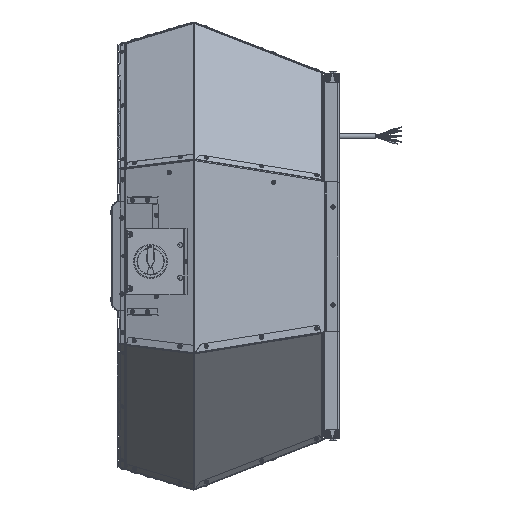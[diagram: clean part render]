
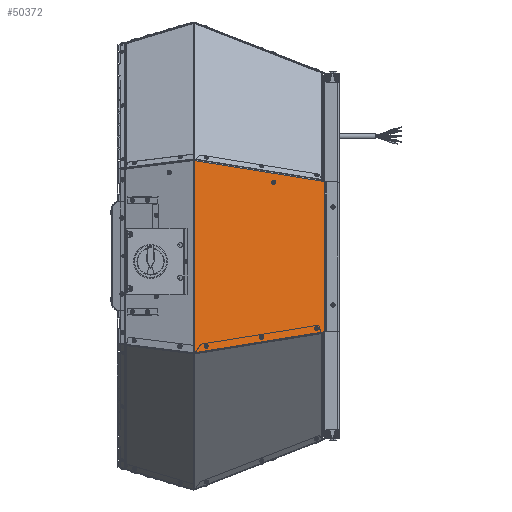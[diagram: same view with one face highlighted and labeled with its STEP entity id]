
A CAD part, left-side view. The second image highlights one B-rep face of the part: STEP entity #50372.
In plain terms, the highlighted planar face has unit normal (-0.932, -0.362, 0).
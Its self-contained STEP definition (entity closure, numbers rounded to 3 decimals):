
#900 = EDGE_CURVE ( 'NONE', #111246, #110384, #77386, .T. ) ;
#9060 = CARTESIAN_POINT ( 'NONE',  ( -327.007, -21.91, 136.099 ) ) ;
#9062 = DIRECTION ( 'NONE',  ( 0.362, -0.932, 0. ) ) ;
#9079 = CARTESIAN_POINT ( 'NONE',  ( -429.996, 242.927, 175.286 ) ) ;
#9082 = DIRECTION ( 'NONE',  ( 0.28, -0.72, 0.636 ) ) ;
#16364 = FACE_BOUND ( 'NONE', #85414, .T. ) ;
#16367 = FACE_BOUND ( 'NONE', #85711, .T. ) ;
#16369 = FACE_OUTER_BOUND ( 'NONE', #85741, .T. ) ;
#16371 = FACE_BOUND ( 'NONE', #85644, .T. ) ;
#16372 = FACE_BOUND ( 'NONE', #85731, .T. ) ;
#27580 = CARTESIAN_POINT ( 'NONE',  ( -381.379, 117.909, -149.259 ) ) ;
#27660 = CARTESIAN_POINT ( 'NONE',  ( -382.901, 121.823, -149.259 ) ) ;
#27673 = CARTESIAN_POINT ( 'NONE',  ( -420.806, 219.293, -165.591 ) ) ;
#27679 = CARTESIAN_POINT ( 'NONE',  ( -338.931, 8.753, 137.643 ) ) ;
#27714 = CARTESIAN_POINT ( 'NONE',  ( -430., 242.936, 175.286 ) ) ;
#27717 = CARTESIAN_POINT ( 'NONE',  ( -372.601, 95.335, 135.22 ) ) ;
#27837 = CARTESIAN_POINT ( 'NONE',  ( -429.996, 242.927, 175.286 ) ) ;
#27844 = CARTESIAN_POINT ( 'NONE',  ( -343.475, 20.438, -132.928 ) ) ;
#27925 = CARTESIAN_POINT ( 'NONE',  ( -336.426, 2.312, 136.099 ) ) ;
#27926 = CARTESIAN_POINT ( 'NONE',  ( -430., 242.936, -177.755 ) ) ;
#27988 = CARTESIAN_POINT ( 'NONE',  ( -422.328, 223.208, -165.591 ) ) ;
#28020 = CARTESIAN_POINT ( 'NONE',  ( -429.967, 242.853, 175.352 ) ) ;
#34130 = CIRCLE ( 'NONE', #156478, 2.1 ) ;
#35260 = DIRECTION ( 'NONE',  ( 0.932, 0.362, 0. ) ) ;
#35262 = CARTESIAN_POINT ( 'NONE',  ( -430.298, 243.702, 177.765 ) ) ;
#35268 = PLANE ( 'NONE',  #163879 ) ;
#35274 = DIRECTION ( 'NONE',  ( -0.362, 0.932, 0. ) ) ;
#40109 = DIRECTION ( 'NONE',  ( 0.362, -0.932, 0. ) ) ;
#40113 = DIRECTION ( 'NONE',  ( -0.932, -0.362, 0. ) ) ;
#40114 = CARTESIAN_POINT ( 'NONE',  ( -342.714, 18.481, -132.928 ) ) ;
#41705 = LINE ( 'NONE', #150708, #41707 ) ;
#41707 = VECTOR ( 'NONE', #150706, 1000. ) ;
#41897 = LINE ( 'NONE', #45782, #41907 ) ;
#41899 = LINE ( 'NONE', #45765, #41902 ) ;
#41902 = VECTOR ( 'NONE', #45770, 1000. ) ;
#41907 = VECTOR ( 'NONE', #45798, 1000. ) ;
#41915 = CIRCLE ( 'NONE', #155805, 2.1 ) ;
#41940 = LINE ( 'NONE', #46190, #41944 ) ;
#41943 = CIRCLE ( 'NONE', #155837, 2.1 ) ;
#41944 = VECTOR ( 'NONE', #46137, 1000. ) ;
#41956 = CIRCLE ( 'NONE', #155854, 2.1 ) ;
#42516 = CIRCLE ( 'NONE', #156021, 2.1 ) ;
#42531 = LINE ( 'NONE', #132648, #42534 ) ;
#42534 = VECTOR ( 'NONE', #132655, 1000. ) ;
#45765 = CARTESIAN_POINT ( 'NONE',  ( -429.996, 242.927, 175.286 ) ) ;
#45770 = DIRECTION ( 'NONE',  ( 0.362, -0.932, 0. ) ) ;
#45782 = CARTESIAN_POINT ( 'NONE',  ( -336.426, 2.312, 177.765 ) ) ;
#45798 = DIRECTION ( 'NONE',  ( 0., 0., -1. ) ) ;
#45900 = CARTESIAN_POINT ( 'NONE',  ( -382.14, 119.866, -149.259 ) ) ;
#45904 = DIRECTION ( 'NONE',  ( -0.932, -0.362, 0. ) ) ;
#45907 = DIRECTION ( 'NONE',  ( 0.362, -0.932, 0. ) ) ;
#46137 = DIRECTION ( 'NONE',  ( 0., 0., -1. ) ) ;
#46190 = CARTESIAN_POINT ( 'NONE',  ( -338.931, 8.753, 136.099 ) ) ;
#46220 = CARTESIAN_POINT ( 'NONE',  ( -382.14, 119.866, -149.259 ) ) ;
#46222 = DIRECTION ( 'NONE',  ( -0.932, -0.362, 0. ) ) ;
#46227 = DIRECTION ( 'NONE',  ( 0.362, -0.932, 0. ) ) ;
#46456 = CARTESIAN_POINT ( 'NONE',  ( -342.714, 18.481, -132.928 ) ) ;
#46459 = DIRECTION ( 'NONE',  ( -0.932, -0.362, 0. ) ) ;
#46463 = DIRECTION ( 'NONE',  ( 0.362, -0.932, 0. ) ) ;
#50372 = ADVANCED_FACE ( 'NONE', ( #16367, #16372, #16364, #16371, #16369 ), #35268, .F. ) ;
#58980 = LINE ( 'NONE', #90972, #58990 ) ;
#58990 = VECTOR ( 'NONE', #90981, 1000. ) ;
#59613 = CIRCLE ( 'NONE', #156170, 2.1 ) ;
#59937 = CIRCLE ( 'NONE', #156200, 2.1 ) ;
#60118 = LINE ( 'NONE', #9060, #60125 ) ;
#60125 = VECTOR ( 'NONE', #9062, 1000. ) ;
#60127 = LINE ( 'NONE', #9079, #60139 ) ;
#60139 = VECTOR ( 'NONE', #9082, 1000. ) ;
#77386 = CIRCLE ( 'NONE', #88217, 2.1 ) ;
#85414 = EDGE_LOOP ( 'NONE', ( #149684, #149686 ) ) ;
#85644 = EDGE_LOOP ( 'NONE', ( #149680, #149682 ) ) ;
#85711 = EDGE_LOOP ( 'NONE', ( #149693, #149695 ) ) ;
#85731 = EDGE_LOOP ( 'NONE', ( #149688, #149690 ) ) ;
#85741 = EDGE_LOOP ( 'NONE', ( #149675, #149677, #149671, #149673, #149667, #149669, #149662, #149664 ) ) ;
#87997 = EDGE_CURVE ( 'NONE', #109713, #110653, #41705, .T. ) ;
#88217 = AXIS2_PLACEMENT_3D ( 'NONE', #40114, #40113, #40109 ) ;
#88724 = EDGE_CURVE ( 'NONE', #109713, #110368, #41899, .T. ) ;
#88733 = EDGE_CURVE ( 'NONE', #110659, #111002, #41897, .T. ) ;
#88768 = EDGE_CURVE ( 'NONE', #109640, #109495, #41915, .T. ) ;
#88850 = EDGE_CURVE ( 'NONE', #109669, #110952, #41940, .T. ) ;
#88859 = EDGE_CURVE ( 'NONE', #109495, #109640, #41943, .T. ) ;
#88904 = EDGE_CURVE ( 'NONE', #110384, #111246, #41956, .T. ) ;
#89982 = EDGE_CURVE ( 'NONE', #109717, #111155, #42516, .T. ) ;
#90011 = EDGE_CURVE ( 'NONE', #109669, #110880, #42531, .T. ) ;
#90972 = CARTESIAN_POINT ( 'NONE',  ( -336.426, 2.312, -138.995 ) ) ;
#90981 = DIRECTION ( 'NONE',  ( -0.358, 0.922, -0.148 ) ) ;
#91497 = EDGE_CURVE ( 'NONE', #111002, #110653, #58980, .T. ) ;
#92294 = EDGE_CURVE ( 'NONE', #110801, #109671, #59613, .T. ) ;
#92511 = CARTESIAN_POINT ( 'NONE',  ( -421.567, 221.251, -165.591 ) ) ;
#92514 = DIRECTION ( 'NONE',  ( -0.932, -0.362, 0. ) ) ;
#92517 = DIRECTION ( 'NONE',  ( 0.362, -0.932, 0. ) ) ;
#92637 = EDGE_CURVE ( 'NONE', #111155, #109717, #59937, .T. ) ;
#92851 = EDGE_CURVE ( 'NONE', #110952, #110659, #60118, .T. ) ;
#92865 = EDGE_CURVE ( 'NONE', #110368, #110880, #60127, .T. ) ;
#93447 = CARTESIAN_POINT ( 'NONE',  ( -373.362, 97.292, 135.22 ) ) ;
#93450 = DIRECTION ( 'NONE',  ( -0.932, -0.362, 0. ) ) ;
#93452 = DIRECTION ( 'NONE',  ( 0.362, -0.932, 0. ) ) ;
#94154 = EDGE_CURVE ( 'NONE', #109671, #110801, #34130, .T. ) ;
#109495 = VERTEX_POINT ( 'NONE', #27580 ) ;
#109640 = VERTEX_POINT ( 'NONE', #27660 ) ;
#109669 = VERTEX_POINT ( 'NONE', #27679 ) ;
#109671 = VERTEX_POINT ( 'NONE', #27673 ) ;
#109713 = VERTEX_POINT ( 'NONE', #27714 ) ;
#109717 = VERTEX_POINT ( 'NONE', #27717 ) ;
#110368 = VERTEX_POINT ( 'NONE', #27837 ) ;
#110384 = VERTEX_POINT ( 'NONE', #27844 ) ;
#110653 = VERTEX_POINT ( 'NONE', #27926 ) ;
#110659 = VERTEX_POINT ( 'NONE', #27925 ) ;
#110801 = VERTEX_POINT ( 'NONE', #27988 ) ;
#110880 = VERTEX_POINT ( 'NONE', #28020 ) ;
#110952 = VERTEX_POINT ( 'NONE', #137449 ) ;
#111002 = VERTEX_POINT ( 'NONE', #137518 ) ;
#111155 = VERTEX_POINT ( 'NONE', #137718 ) ;
#111246 = VERTEX_POINT ( 'NONE', #137813 ) ;
#132530 = CARTESIAN_POINT ( 'NONE',  ( -373.362, 97.292, 135.22 ) ) ;
#132535 = DIRECTION ( 'NONE',  ( -0.932, -0.362, 0. ) ) ;
#132540 = DIRECTION ( 'NONE',  ( 0.362, -0.932, 0. ) ) ;
#132648 = CARTESIAN_POINT ( 'NONE',  ( -336.554, 2.64, 136.658 ) ) ;
#132655 = DIRECTION ( 'NONE',  ( -0.358, 0.922, 0.148 ) ) ;
#137449 = CARTESIAN_POINT ( 'NONE',  ( -338.931, 8.753, 136.099 ) ) ;
#137518 = CARTESIAN_POINT ( 'NONE',  ( -336.426, 2.312, -138.995 ) ) ;
#137718 = CARTESIAN_POINT ( 'NONE',  ( -374.123, 99.249, 135.22 ) ) ;
#137813 = CARTESIAN_POINT ( 'NONE',  ( -341.953, 16.524, -132.928 ) ) ;
#149662 = ORIENTED_EDGE ( 'NONE', *, *, #87997, .T. ) ;
#149664 = ORIENTED_EDGE ( 'NONE', *, *, #91497, .F. ) ;
#149667 = ORIENTED_EDGE ( 'NONE', *, *, #92865, .F. ) ;
#149669 = ORIENTED_EDGE ( 'NONE', *, *, #88724, .F. ) ;
#149671 = ORIENTED_EDGE ( 'NONE', *, *, #88850, .F. ) ;
#149673 = ORIENTED_EDGE ( 'NONE', *, *, #90011, .T. ) ;
#149675 = ORIENTED_EDGE ( 'NONE', *, *, #88733, .F. ) ;
#149677 = ORIENTED_EDGE ( 'NONE', *, *, #92851, .F. ) ;
#149680 = ORIENTED_EDGE ( 'NONE', *, *, #88859, .F. ) ;
#149682 = ORIENTED_EDGE ( 'NONE', *, *, #88768, .F. ) ;
#149684 = ORIENTED_EDGE ( 'NONE', *, *, #94154, .F. ) ;
#149686 = ORIENTED_EDGE ( 'NONE', *, *, #92294, .F. ) ;
#149688 = ORIENTED_EDGE ( 'NONE', *, *, #900, .F. ) ;
#149690 = ORIENTED_EDGE ( 'NONE', *, *, #88904, .F. ) ;
#149693 = ORIENTED_EDGE ( 'NONE', *, *, #89982, .F. ) ;
#149695 = ORIENTED_EDGE ( 'NONE', *, *, #92637, .F. ) ;
#150706 = DIRECTION ( 'NONE',  ( 0., 0., -1. ) ) ;
#150708 = CARTESIAN_POINT ( 'NONE',  ( -430., 242.936, 177.765 ) ) ;
#154366 = CARTESIAN_POINT ( 'NONE',  ( -421.567, 221.251, -165.591 ) ) ;
#154367 = DIRECTION ( 'NONE',  ( -0.932, -0.362, 0. ) ) ;
#154369 = DIRECTION ( 'NONE',  ( 0.362, -0.932, 0. ) ) ;
#155805 = AXIS2_PLACEMENT_3D ( 'NONE', #45900, #45904, #45907 ) ;
#155837 = AXIS2_PLACEMENT_3D ( 'NONE', #46220, #46222, #46227 ) ;
#155854 = AXIS2_PLACEMENT_3D ( 'NONE', #46456, #46459, #46463 ) ;
#156021 = AXIS2_PLACEMENT_3D ( 'NONE', #132530, #132535, #132540 ) ;
#156170 = AXIS2_PLACEMENT_3D ( 'NONE', #92511, #92514, #92517 ) ;
#156200 = AXIS2_PLACEMENT_3D ( 'NONE', #93447, #93450, #93452 ) ;
#156478 = AXIS2_PLACEMENT_3D ( 'NONE', #154366, #154367, #154369 ) ;
#163879 = AXIS2_PLACEMENT_3D ( 'NONE', #35262, #35260, #35274 ) ;
